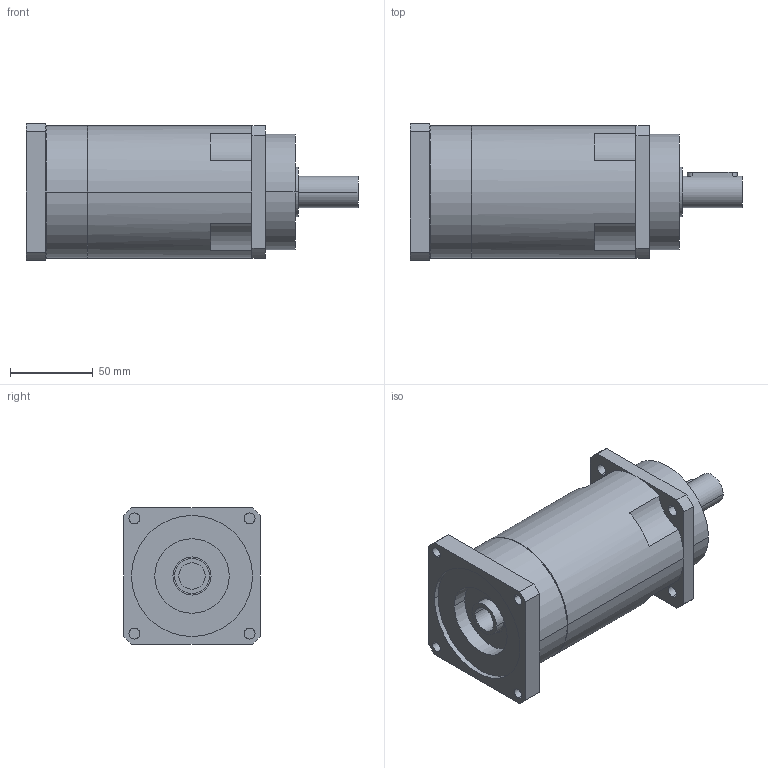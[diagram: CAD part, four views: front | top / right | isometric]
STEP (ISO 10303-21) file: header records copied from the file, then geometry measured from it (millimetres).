
FILE_DESCRIPTION(('CoCreate Modeling STEP Export'),'2;1');
FILE_NAME('GPR100_ig-48-64-80-100-120-144-180-216_19_B5_15.87_P05.stp','2014-08-26T11:55:33',(''),(''),'CoCreate Modeling STEP processor for AP214 (Solid Model)','CoCreate Modeling 16.00C 25-Feb-2009 (C) Parametric Technology GmbH','');
FILE_SCHEMA(('AUTOMOTIVE_DESIGN { 1 0 10303 214 1 1 1 1 }'));
Length unit declared in the file: millimetre
Products named in the file (2): GPR100_ig-48-64-80-100-120-144-180-216_19_B5_15.87_P05
Assembly tree (1 placements, depth 2):
  GPR100_ig-48-64-80-100-120-144-180-216_19_B5_15.87_P05
    GPR100_ig-48-64-80-100-120-144-180-216_19_B5_15.87_P05
Bounding box: 200.4 x 82.5 x 82.5 mm (x, y, z)
Volume: 794977.5 mm3; surface area: 66612 mm2
Topology: 1 solids, 1 shells, 89 faces, 244 edges, 166 vertices
Faces by surface type: cylinder 52, plane 31, cone 6
Entity records: 2597 total; most frequent: ORIENTED_EDGE 484, CARTESIAN_POINT 471, DIRECTION 386, EDGE_CURVE 242, VERTEX_POINT 166, AXIS2_PLACEMENT_3D 145, EDGE_LOOP 116, VECTOR 96
